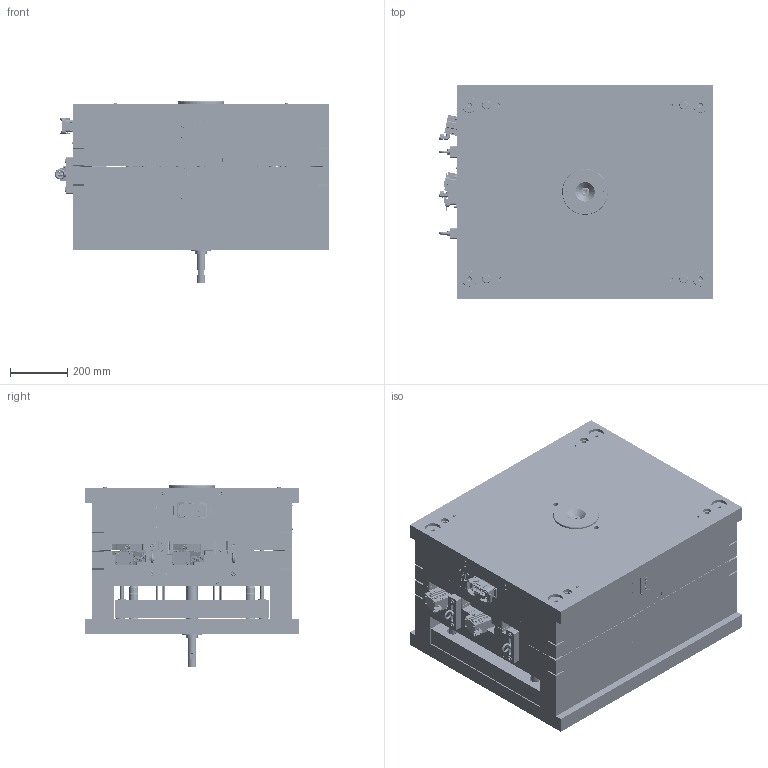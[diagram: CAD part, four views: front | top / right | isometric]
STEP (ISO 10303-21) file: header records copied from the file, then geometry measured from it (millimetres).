
FILE_DESCRIPTION (( 'STEP AP203' ), '1' );
FILE_NAME ('forma_v3-5_dp-ses.STEP', '2025-04-15T05:29:19', ( '' ), ( '' ), 'SwSTEP 2.0', 'SolidWorks 2023', '' );
FILE_SCHEMA (( 'CONFIG_CONTROL_DESIGN' ));
Length unit declared in the file: millimetre
Products named in the file (253): E_2030_15_IN_1_4_1_voda_in_2; E 1300_6x36; E_3046_13-aretace; E 1010_32-46_115; DIN 912 M8 x 55 --- 28N_DIN 912 M8 x 55 --- 28N; E_1514_16_51-cep_spojovaci; E 1220_6x12_1; Air-1_AIR2; E 2710_16B; Lista_E_3136_17_10_140; E 1405_746 896_8_1; E 1200_6x20_1; E 1160_54x180_3; E_71109_1_4_uhlove-sroubeni; ZrcadleníE 21196_6.4_10x450; E 1200_12x45_2; E 1160_54x60_2; priruba_j1; E 1000_40-66_75; EH 4370_37_1; E_1303_6x45_kolik; E 2000 D_13_1_4; E 1100_32-36; F 15_696896_46_1730_2; E 7020-02_1; EH 6400_12_30x53_16; vyhazovac3_E_1711_10x250; jadro_1_posuvna_jednotka; O-Krozek_E_2130_16x2_5; E_1510_40x116-rozperka; E 1220_5x10_2; E_1304_50-centrovani; 2_2; E 1200_8x75_3; posuvna_jednotka_j3_v2-ses; E 2710_16B_1; H107905_2,5x12x1-01; E 3017_63_60_110; uhlove_otocne_sroubeni-E_2088_1_8; vyhazovac5-E_1711_5x250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
Assembly tree (483 placements, depth 9):
  E 2000 D_13_1_4
  E 7020-02_1
  sketch_rozlozeni_dutitina
  forma_v3-5_dp-ses
    pevna_strana_forma_v3-dp
      F 15_696896_46_1730_1
      F 50_696896_66_2312
      FH 63_696 896_100.1_IMT2_37_100_90_1730_1
      E 1000_40-66_75
      E 1000_42-66_75
      E 1000_42-66_75_1
      E 1000_42-66_75_2
      E 1160_54x60
      E 1160_54x60_1
      E 1160_54x60_2
      E 1160_54x60_3
      E 1200_20x150
      E 1200_20x150_2
      E 1200_20x150_3
      E 1200_20x150_1
      E 1405_746 896_8
      stredidi_krouzek-E_1362_160_90_30x20_1
        E 1362_160_90_30x20_1
      DIN 912 M5 x 20 --- 20N_DIN 912 M5 x 20 --- 20N  x2
      horky_blok_forma_v3-dp
        EH 4370_37_1
        EH 4370_37
        EH 4200_37_SMM_1
        EH 4200_37_SMM
        EH 4100_37x80_11_1
        EH 4100_37x80_11
        EH 6400_12_30x53_16
        E 1300_6x36
        E 1200_5x8
        E 1200_8x75_3
        E 1200_8x75_2
        E 1200_8x75_1
        E 1200_8x75
        DIN 6340-8.4_3
        DIN 6340-8.4_2
        DIN 6340-8.4_1
        DIN 6340-8.4
        ISO 13337-13x20_3
        ISO 13337-13x20_2
        ISO 13337-13x20_1
        ISO 13337-13x20
        EH 6281_19x19_3
        EH 6281_19x19_2
        EH 6281_19x19_1
        EH 6281_19x19
        EH 6304_20_12_1
        EH 6304_20_12
        EH 6200_32x19
        EH 61001 IMT2_303_37 __ A=100
        tryska_ses  x2
          H107930_2_5x10x21_4
            H107930_2,5x10x21_1
          izolacni_krozek-H107931_31x10x10_5
          JEHLA-H107910_2_5x40x8x300_1
            H1079050_2,5x300
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Bounding box: 959.37 x 746 x 634.3 mm (x, y, z)
Volume: 286094122 mm3; surface area: 19214996.3 mm2
Topology: 619 solids, 621 shells, 27145 faces, 64138 edges, 39431 vertices
Faces by surface type: plane 11596, cylinder 8436, cone 3958, torus 1482, bspline 1429, sphere 244
Entity records: 546639 total; most frequent: CARTESIAN_POINT 150736, DIRECTION 75642, ORIENTED_EDGE 74628, EDGE_CURVE 37314, AXIS2_PLACEMENT_3D 26840, VERTEX_POINT 23720, LINE 21962, VECTOR 21962
